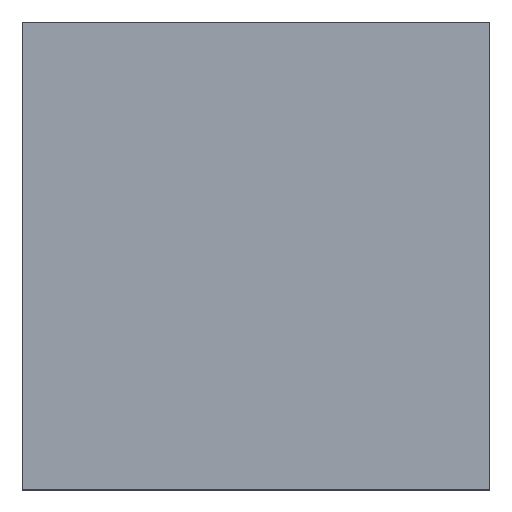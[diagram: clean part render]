
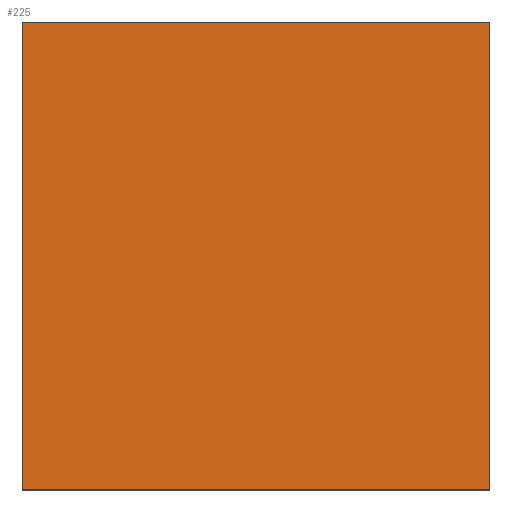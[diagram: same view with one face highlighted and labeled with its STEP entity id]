
A CAD part, top view. The second image highlights one B-rep face of the part: STEP entity #225.
In plain terms, the highlighted planar face has unit normal (0, 0, 1).
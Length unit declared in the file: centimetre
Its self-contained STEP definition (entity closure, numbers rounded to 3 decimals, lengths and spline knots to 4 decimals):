
#19 = FACE_OUTER_BOUND ( 'NONE', #282, .T. ) ;
#23 = EDGE_CURVE ( 'NONE', #261, #260, #246, .T. ) ;
#31 = VERTEX_POINT ( 'NONE', #352 ) ;
#37 = CARTESIAN_POINT ( 'NONE',  ( 1000., 1000., 1000. ) ) ;
#43 = EDGE_CURVE ( 'NONE', #31, #261, #358, .T. ) ;
#61 = ORIENTED_EDGE ( 'NONE', *, *, #43, .T. ) ;
#63 = DIRECTION ( 'NONE',  ( 1., 0., 0. ) ) ;
#67 = CARTESIAN_POINT ( 'NONE',  ( 0., 0., 1000. ) ) ;
#72 = CARTESIAN_POINT ( 'NONE',  ( 0., 1000., 1000. ) ) ;
#75 = PLANE ( 'NONE',  #98 ) ;
#86 = EDGE_CURVE ( 'NONE', #260, #290, #187, .T. ) ;
#98 = AXIS2_PLACEMENT_3D ( 'NONE', #305, #165, #278 ) ;
#126 = ORIENTED_EDGE ( 'NONE', *, *, #86, .T. ) ;
#142 = EDGE_CURVE ( 'NONE', #290, #31, #297, .T. ) ;
#157 = DIRECTION ( 'NONE',  ( 0., -1., 0. ) ) ;
#164 = VECTOR ( 'NONE', #354, 100. ) ;
#165 = DIRECTION ( 'NONE',  ( 0., 0., 1. ) ) ;
#172 = CARTESIAN_POINT ( 'NONE',  ( 1000., 0., 1000. ) ) ;
#187 = LINE ( 'NONE', #67, #200 ) ;
#200 = VECTOR ( 'NONE', #63, 100. ) ;
#213 = CARTESIAN_POINT ( 'NONE',  ( 0., 1000., 1000. ) ) ;
#225 = ADVANCED_FACE ( 'NONE', ( #19 ), #75, .T. ) ;
#241 = ORIENTED_EDGE ( 'NONE', *, *, #142, .T. ) ;
#242 = CARTESIAN_POINT ( 'NONE',  ( 0., 0., 1000. ) ) ;
#246 = LINE ( 'NONE', #72, #366 ) ;
#260 = VERTEX_POINT ( 'NONE', #242 ) ;
#261 = VERTEX_POINT ( 'NONE', #359 ) ;
#278 = DIRECTION ( 'NONE',  ( 1., 0., 0. ) ) ;
#282 = EDGE_LOOP ( 'NONE', ( #285, #126, #241, #61 ) ) ;
#285 = ORIENTED_EDGE ( 'NONE', *, *, #23, .T. ) ;
#290 = VERTEX_POINT ( 'NONE', #172 ) ;
#297 = LINE ( 'NONE', #37, #338 ) ;
#301 = DIRECTION ( 'NONE',  ( 0., 1., 0. ) ) ;
#305 = CARTESIAN_POINT ( 'NONE',  ( 0., 0., 1000. ) ) ;
#338 = VECTOR ( 'NONE', #301, 100. ) ;
#352 = CARTESIAN_POINT ( 'NONE',  ( 1000., 1000., 1000. ) ) ;
#354 = DIRECTION ( 'NONE',  ( -1., 0., 0. ) ) ;
#358 = LINE ( 'NONE', #213, #164 ) ;
#359 = CARTESIAN_POINT ( 'NONE',  ( 0., 1000., 1000. ) ) ;
#366 = VECTOR ( 'NONE', #157, 100. ) ;
